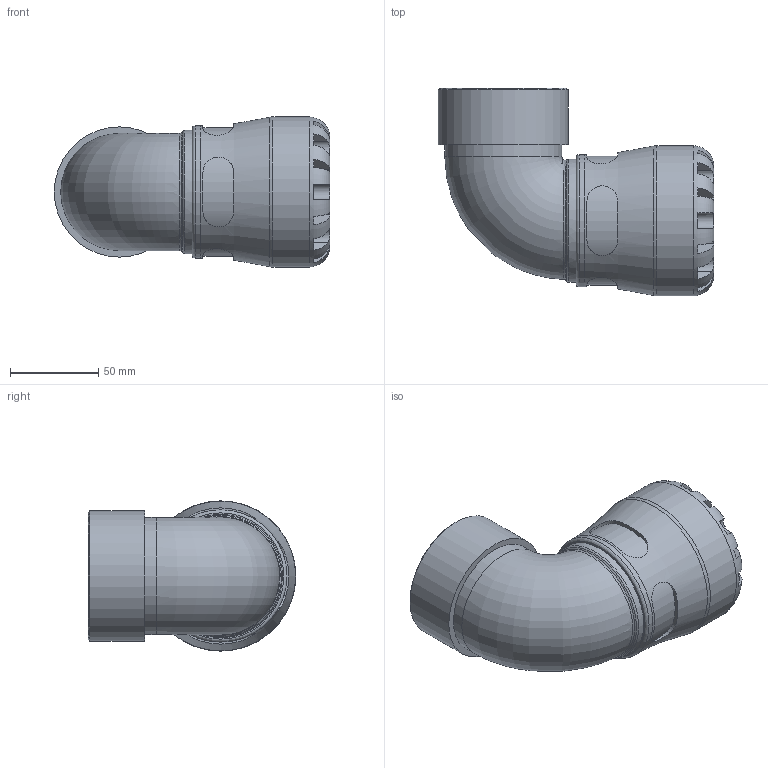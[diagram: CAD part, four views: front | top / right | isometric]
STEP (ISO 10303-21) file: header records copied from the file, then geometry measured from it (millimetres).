
FILE_DESCRIPTION(/* description */ ('PLASSON 90° ELBOW WITH THREADED FEMALE OFFTAKE 50X2" SERIES 1'),/* implementation_level */ '2;1');
FILE_NAME(/* name */ 'C:\Dropbox\KIMPROJECTS-Inventor\99-16-3568-Processing\S1\1015\101500050020_191500050020.ipt.stp',/* time_stamp */ '2017-07-30T11:52:05+03:00',/* author */ ('KIM'),/* organization */ (''),/* preprocessor_version */ 'ST-DEVELOPER v15.6',/* originating_system */ 'Autodesk Inventor 2015',/* authorisation */ '');
FILE_SCHEMA (('AUTOMOTIVE_DESIGN { 1 0 10303 214 3 1 1 }'));
Length unit declared in the file: millimetre
Products named in the file (1): 101500050020_191500050020
Bounding box: 155.83 x 117.5 x 85 mm (x, y, z)
Volume: 386524.4 mm3; surface area: 79273 mm2
Topology: 1 solids, 1 shells, 111 faces, 270 edges, 168 vertices
Faces by surface type: plane 62, cylinder 37, torus 6, bspline 4, cone 2
Full cylindrical faces by diameter (mm): 50 x1, 50.99 x2, 56.656 x1, 66.288 x1, 69.7 x1, 73.653 x1, 74.8 x1, 85 x1
Entity records: 4392 total; most frequent: CARTESIAN_POINT 1943, ORIENTED_EDGE 494, DIRECTION 488, EDGE_CURVE 247, AXIS2_PLACEMENT_3D 204, VERTEX_POINT 163, EDGE_LOOP 138, FACE_OUTER_BOUND 111
